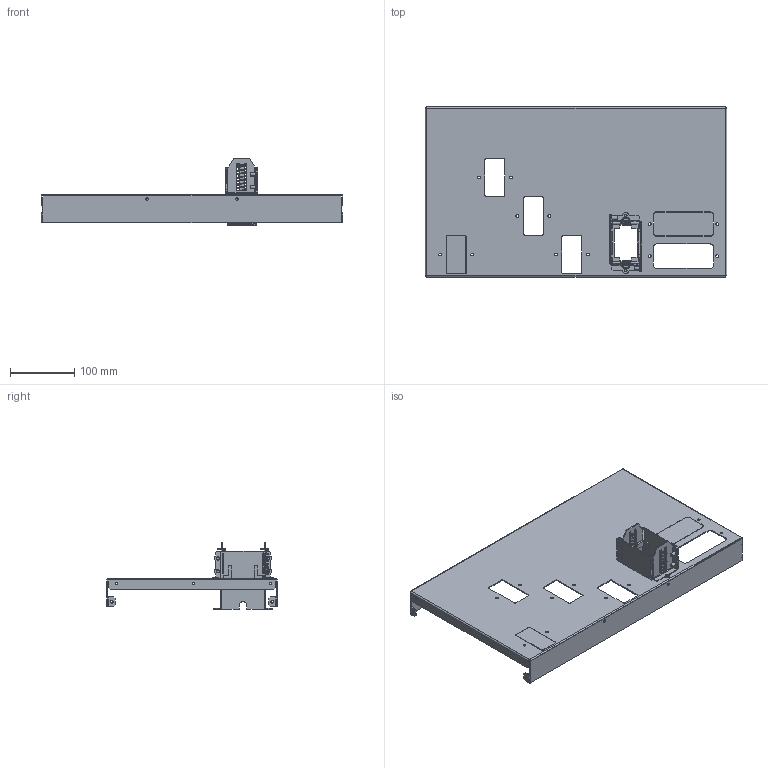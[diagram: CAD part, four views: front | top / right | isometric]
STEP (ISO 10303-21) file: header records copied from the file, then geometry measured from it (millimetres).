
FILE_DESCRIPTION(('CAx-IF Rec.Pracs.---Model Styling and Organization---1.2---2011-12-15','CAx-IF Rec.Pracs.---Geometric and Assembly Validation Properties---4.1---2014-06-16','CAx-IF Rec.Pracs.---PMI Polyline Presentation---2.0---2013-05-24'),'2;1');
FILE_NAME('R5M2W6M1BR61.stp','2021-05-05T12:33:26+03:00',(''),(''),'STEP Interface 4.4 by CT CoreTechnologie','3D_Evolution4.4 by CT CoreTechnologie','');
FILE_SCHEMA(('AUTOMOTIVE_DESIGN { 1 0 10303 214 1 1 1 1 }'));
Length unit declared in the file: millimetre
Products named in the file (8): R5M2W6M1BR61; RB.1765.00.00.0 ÑÁ; RB.1570.00.00.0; RB.1569.00.00.1_-00; RB.1571.00.00.0_In prestressed condition - 40 mm; M5x8-DIN7500C_stright; RB.1506.00.00.0_-06; RB.1567.00.00.0_-00
Assembly tree (13 placements, depth 3):
  R5M2W6M1BR61
    RB.1765.00.00.0 ÑÁ
      RB.1570.00.00.0  x2
      RB.1569.00.00.1_-00  x2
      RB.1571.00.00.0_In prestressed condition - 40 mm  x2
      M5x8-DIN7500C_stright  x4
    RB.1506.00.00.0_-06
    RB.1567.00.00.0_-00
Bounding box: 470 x 265 x 103.8 mm (x, y, z)
Surface area: 386093 mm2 (no closed solid volume)
Topology: 0 solids, 20 shells, 702 faces, 1869 edges, 1207 vertices
Faces by surface type: plane 466, cylinder 208, bspline 28
Entity records: 18124 total; most frequent: CARTESIAN_POINT 4386, ORIENTED_EDGE 2758, DIRECTION 2731, EDGE_CURVE 1379, VECTOR 1023, LINE 1023, VERTEX_POINT 889, AXIS2_PLACEMENT_3D 854
